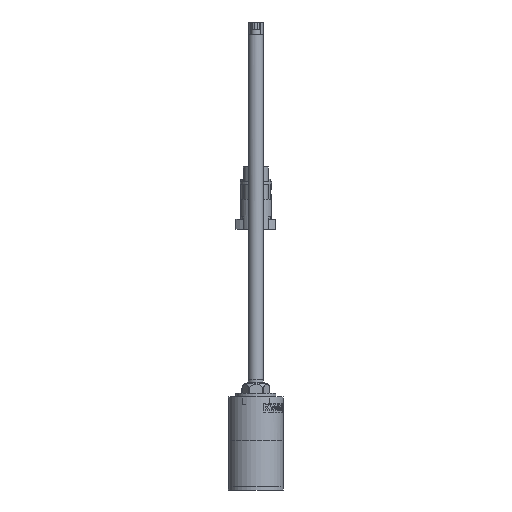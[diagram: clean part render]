
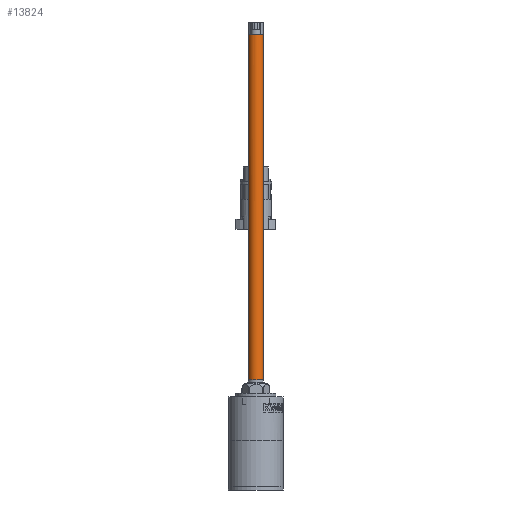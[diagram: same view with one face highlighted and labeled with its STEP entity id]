
A CAD part, left-side view. The second image highlights one B-rep face of the part: STEP entity #13824.
In plain terms, the highlighted cylindrical face has radius 3 mm (diameter 6 mm), a full revolution.
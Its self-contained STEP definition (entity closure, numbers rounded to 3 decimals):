
#7218=CYLINDRICAL_SURFACE('',#39653,3.);
#10339=CIRCLE('',#39652,3.);
#13824=ADVANCED_FACE('',(#16204,#16205),#7218,.T.);
#16204=FACE_BOUND('',#17800,.T.);
#16205=FACE_BOUND('',#17801,.T.);
#17800=EDGE_LOOP('',(#21076));
#17801=EDGE_LOOP('',(#21077));
#21076=ORIENTED_EDGE('',*,*,#33159,.T.);
#21077=ORIENTED_EDGE('',*,*,#33160,.T.);
#29808=VERTEX_POINT('',#54961);
#29809=VERTEX_POINT('',#54963);
#33159=EDGE_CURVE('',#29808,#29808,#37577,.T.);
#33160=EDGE_CURVE('',#29809,#29809,#10339,.T.);
#37577=B_SPLINE_CURVE_WITH_KNOTS('',3,(#54943,#54944,#54945,#54946,#54947,
#54948,#54949,#54950,#54951,#54952,#54953,#54954,#54955,#54956,#54957,#54958,
#54959,#54960),.UNSPECIFIED.,.T.,.F.,(2,2,2,2,2,2,2,2,2,2,2),(-0.125,0.,
0.125,0.25,0.375,0.5,0.625,0.75,0.875,1.,1.125),.UNSPECIFIED.);
#39652=AXIS2_PLACEMENT_3D('',#54962,#42724,#42725);
#39653=AXIS2_PLACEMENT_3D('',#54964,#42726,#42727);
#42724=DIRECTION('',(0.,0.,-1.));
#42725=DIRECTION('',(-1.,0.,0.));
#42726=DIRECTION('',(0.,0.,-1.));
#42727=DIRECTION('',(-1.,0.,0.));
#54943=CARTESIAN_POINT('',(-203.,0.786,44.1));
#54944=CARTESIAN_POINT('',(-203.,-0.785,44.1));
#54945=CARTESIAN_POINT('',(-202.677,-1.566,44.1));
#54946=CARTESIAN_POINT('',(-201.566,-2.676,44.1));
#54947=CARTESIAN_POINT('',(-200.786,-3.,44.1));
#54948=CARTESIAN_POINT('',(-199.215,-3.,44.1));
#54949=CARTESIAN_POINT('',(-198.434,-2.677,44.1));
#54950=CARTESIAN_POINT('',(-197.324,-1.566,44.1));
#54951=CARTESIAN_POINT('',(-197.,-0.786,44.1));
#54952=CARTESIAN_POINT('',(-197.,0.785,44.1));
#54953=CARTESIAN_POINT('',(-197.323,1.566,44.1));
#54954=CARTESIAN_POINT('',(-198.434,2.676,44.1));
#54955=CARTESIAN_POINT('',(-199.214,3.,44.1));
#54956=CARTESIAN_POINT('',(-200.785,3.,44.1));
#54957=CARTESIAN_POINT('',(-201.566,2.677,44.1));
#54958=CARTESIAN_POINT('',(-202.676,1.566,44.1));
#54959=CARTESIAN_POINT('',(-203.,0.786,44.1));
#54960=CARTESIAN_POINT('',(-203.,-0.785,44.1));
#54961=CARTESIAN_POINT('',(-203.,0.,44.1));
#54962=CARTESIAN_POINT('',(-200.,0.,182.2));
#54963=CARTESIAN_POINT('',(-203.,0.,182.2));
#54964=CARTESIAN_POINT('',(-200.,0.,37.2));
